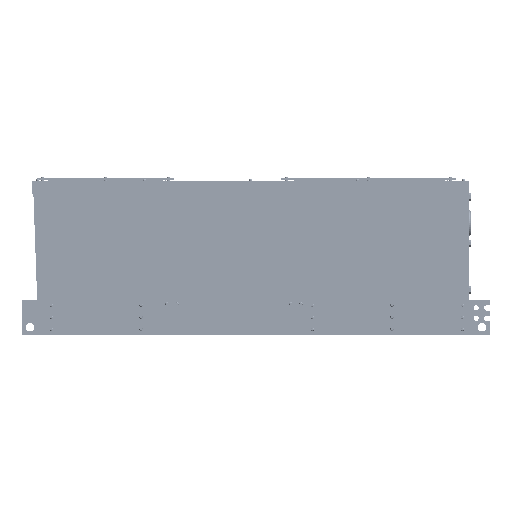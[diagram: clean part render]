
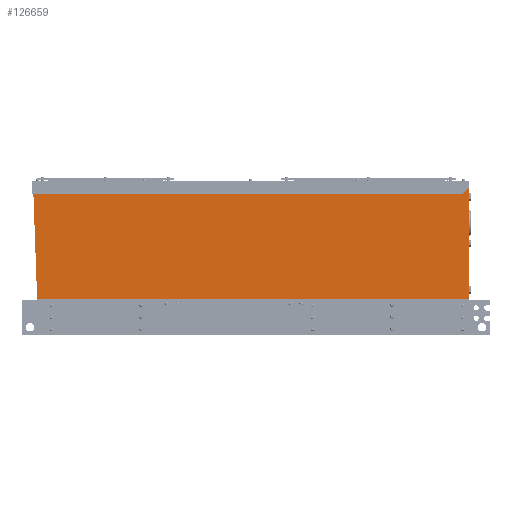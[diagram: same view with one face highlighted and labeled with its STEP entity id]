
A CAD part, left-side view. The second image highlights one B-rep face of the part: STEP entity #126659.
In plain terms, the highlighted planar face has unit normal (-1, 0, 0).
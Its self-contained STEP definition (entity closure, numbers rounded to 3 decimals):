
#1083=DIRECTION('',(0.,0.,1.));
#1084=VECTOR('',#1083,338.4);
#1085=CARTESIAN_POINT('',(-208.,0.,0.));
#1086=LINE('',#1085,#1084);
#40743=DIRECTION('',(0.,-1.,0.));
#40744=VECTOR('',#40743,1266.);
#40745=CARTESIAN_POINT('',(-208.,1266.,338.4));
#40746=LINE('',#40745,#40744);
#40871=DIRECTION('',(0.,0.,1.));
#40872=VECTOR('',#40871,2.3);
#40873=CARTESIAN_POINT('',(-208.,1254.,0.));
#40874=LINE('',#40873,#40872);
#40875=DIRECTION('',(0.,-0.036,-0.999));
#40876=VECTOR('',#40875,334.016);
#40877=CARTESIAN_POINT('',(-208.,1266.,336.1));
#40878=LINE('',#40877,#40876);
#40879=DIRECTION('',(0.,0.,1.));
#40880=VECTOR('',#40879,2.3);
#40881=CARTESIAN_POINT('',(-208.,1266.,336.1));
#40882=LINE('',#40881,#40880);
#40899=DIRECTION('',(0.,1.,0.));
#40900=VECTOR('',#40899,1254.);
#40901=CARTESIAN_POINT('',(-208.,0.,0.));
#40902=LINE('',#40901,#40900);
#53465=CARTESIAN_POINT('',(-208.,0.,338.4));
#53467=VERTEX_POINT('',#53465);
#53471=CARTESIAN_POINT('',(-208.,1266.,338.4));
#53472=VERTEX_POINT('',#53471);
#53613=CARTESIAN_POINT('',(-208.,1266.,336.1));
#53614=VERTEX_POINT('',#53613);
#53615=CARTESIAN_POINT('',(-208.,1254.,2.3));
#53616=VERTEX_POINT('',#53615);
#67644=CARTESIAN_POINT('',(-208.,0.,0.));
#67645=CARTESIAN_POINT('',(-208.,1254.,0.));
#67646=VERTEX_POINT('',#67644);
#67647=VERTEX_POINT('',#67645);
#126642=CARTESIAN_POINT('',(-208.,1266.,0.));
#126643=DIRECTION('',(-1.,0.,0.));
#126644=DIRECTION('',(0.,-1.,0.));
#126645=AXIS2_PLACEMENT_3D('',#126642,#126643,#126644);
#126646=PLANE('',#126645);
#126648=ORIENTED_EDGE('',*,*,#126647,.T.);
#126650=ORIENTED_EDGE('',*,*,#126649,.T.);
#126652=ORIENTED_EDGE('',*,*,#126651,.F.);
#126654=ORIENTED_EDGE('',*,*,#126653,.T.);
#126655=ORIENTED_EDGE('',*,*,#126565,.T.);
#126656=ORIENTED_EDGE('',*,*,#69681,.F.);
#126657=EDGE_LOOP('',(#126648,#126650,#126652,#126654,#126655,#126656));
#126658=FACE_OUTER_BOUND('',#126657,.F.);
#126659=ADVANCED_FACE('',(#126658),#126646,.T.);
#69681=EDGE_CURVE('',#67646,#53467,#1086,.T.);
#126565=EDGE_CURVE('',#53472,#53467,#40746,.T.);
#126647=EDGE_CURVE('',#67646,#67647,#40902,.T.);
#126649=EDGE_CURVE('',#67647,#53616,#40874,.T.);
#126651=EDGE_CURVE('',#53614,#53616,#40878,.T.);
#126653=EDGE_CURVE('',#53614,#53472,#40882,.T.);
